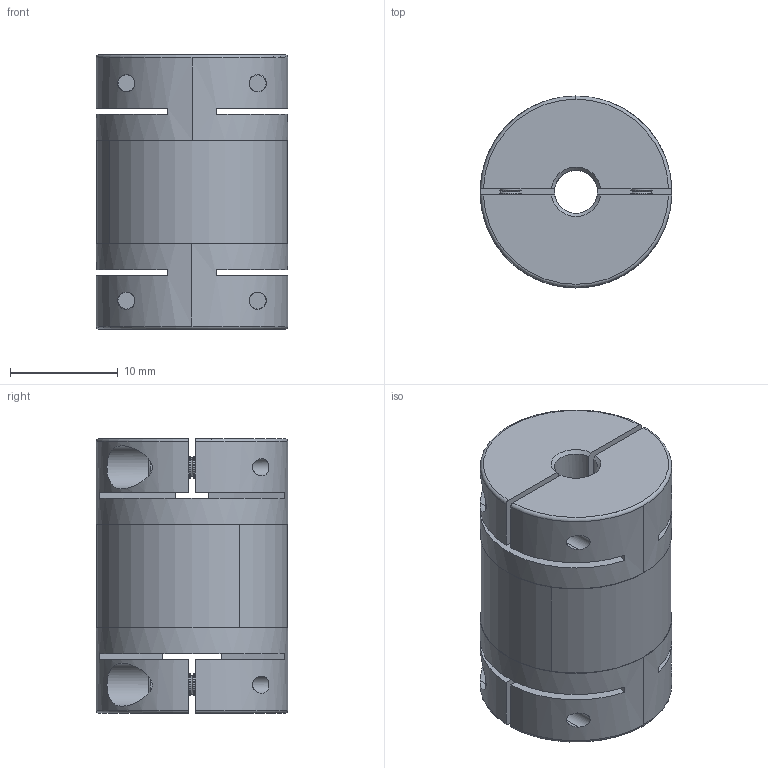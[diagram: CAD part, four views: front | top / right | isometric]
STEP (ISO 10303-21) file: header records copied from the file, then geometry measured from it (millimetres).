
FILE_DESCRIPTION (( 'STEP AP203' ), '1' );
FILE_NAME ('SHR-18C-4X6_203.STEP', '2013-05-18T11:52:24', ( 'Z77' ), ( '' ), 'SwSTEP 2.0', 'SolidWorks 2012', '' );
FILE_SCHEMA (( 'CONFIG_CONTROL_DESIGN' ));
Length unit declared in the file: millimetre
Products named in the file (1): SHR-18C-4X6_203
Bounding box: 17.8 x 17.8 x 25.5 mm (x, y, z)
Volume: 5162.5 mm3; surface area: 3780.6 mm2
Topology: 1 solids, 29 shells, 550 faces, 1210 edges, 672 vertices
Faces by surface type: cone 252, cylinder 180, plane 88, torus 30
Entity records: 15325 total; most frequent: DIRECTION 2878, CARTESIAN_POINT 2853, ORIENTED_EDGE 2404, EDGE_CURVE 1202, AXIS2_PLACEMENT_3D 1157, VERTEX_POINT 672, CIRCLE 606, EDGE_LOOP 578
